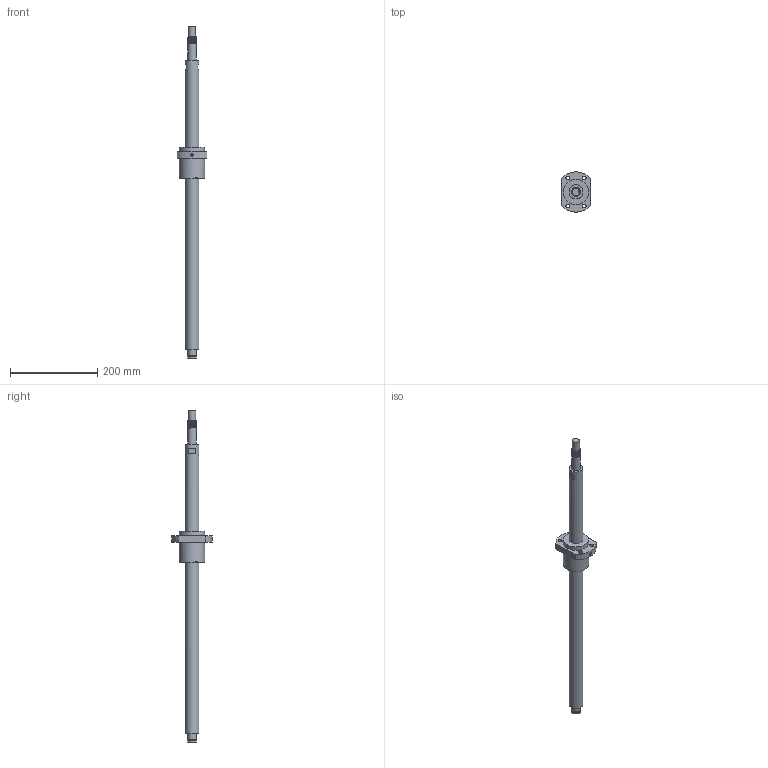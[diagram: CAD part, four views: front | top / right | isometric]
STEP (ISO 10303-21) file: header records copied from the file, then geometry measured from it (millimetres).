
FILE_DESCRIPTION(/* description */ (''),/* implementation_level */ '2;1');
FILE_NAME(/* name */ 'BSG464_asm1.stp',/* time_stamp */ '2017-01-14T09:25:57+08:00',/* author */ (''),/* organization */ (''),/* preprocessor_version */ 'ST-DEVELOPER v15',/* originating_system */ 'SIEMENS PLM Software NX 8.5',/* authorisation */ '');
FILE_SCHEMA (('AUTOMOTIVE_DESIGN { 1 0 10303 214 3 1 1 1 }'));
Length unit declared in the file: millimetre
Products named in the file (3): 01; BSG464; BSG464_asm1
Assembly tree (2 placements, depth 2):
  BSG464_asm1
    BSG464
    01
Bounding box: 68 x 92 x 760 mm (x, y, z)
Volume: 728199.5 mm3; surface area: 107690.6 mm2
Topology: 2 solids, 2 shells, 72 faces, 185 edges, 126 vertices
Faces by surface type: plane 41, cylinder 29, bspline 2
Full cylindrical faces by diameter (mm): 4.5 x4, 5 x1, 6 x1, 9 x4, 17 x1, 19 x1, 20 x8, 32 x2, 58 x2
Entity records: 3391 total; most frequent: CARTESIAN_POINT 1865, DIRECTION 310, ORIENTED_EDGE 260, EDGE_CURVE 130, AXIS2_PLACEMENT_3D 125, EDGE_LOOP 107, VERTEX_POINT 97, FACE_BOUND 71
